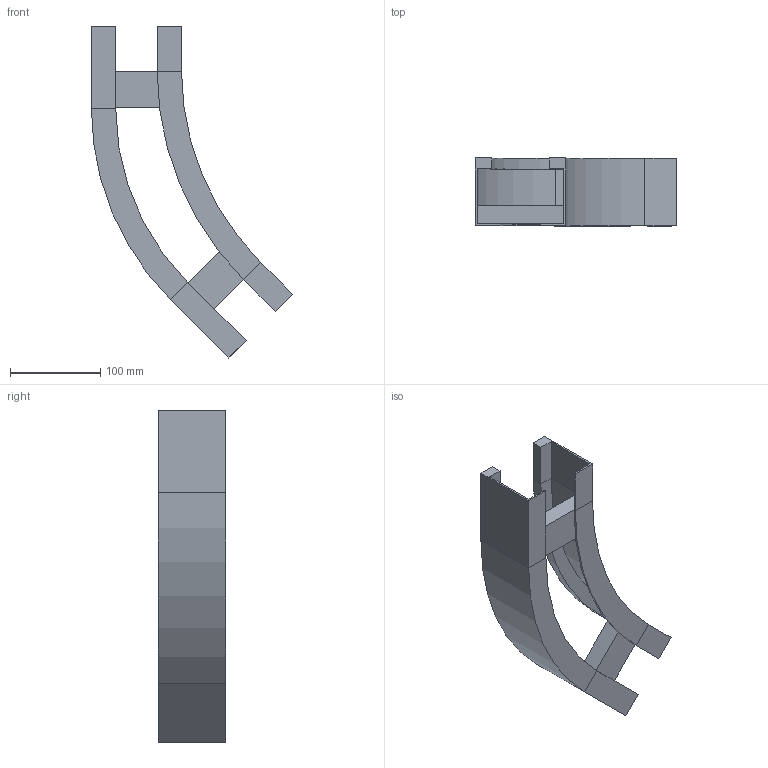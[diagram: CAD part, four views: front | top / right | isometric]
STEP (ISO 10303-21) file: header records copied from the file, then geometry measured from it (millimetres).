
FILE_DESCRIPTION (( 'STEP AP214' ), '1' );
FILE_NAME ('B2_11B3C100.step', '2025-02-21T15:16:25', ( '' ), ( '' ), 'SwSTEP 2.0', 'SolidWorks 2023', '' );
FILE_SCHEMA (( 'AUTOMOTIVE_DESIGN' ));
Length unit declared in the file: millimetre
Products named in the file (4): B2_11B3C100; B2_LONGH.ESTERNO 45°_H75_R300+100; B2_LONGH.INTERNO 45°_H75_R300; TRAVERSINO_100
Assembly tree (4 placements, depth 2):
  B2_11B3C100
    B2_LONGH.INTERNO 45°_H75_R300
    B2_LONGH.ESTERNO 45°_H75_R300+100
    TRAVERSINO_100  x2
Bounding box: 223.22 x 75 x 368.2 mm (x, y, z)
Volume: 451120 mm3; surface area: 206003.3 mm2
Topology: 4 solids, 4 shells, 64 faces, 136 edges, 80 vertices
Faces by surface type: plane 56, cylinder 8
Entity records: 1637 total; most frequent: DIRECTION 270, CARTESIAN_POINT 261, ORIENTED_EDGE 248, EDGE_CURVE 124, LINE 108, VECTOR 108, AXIS2_PLACEMENT_3D 81, VERTEX_POINT 72
